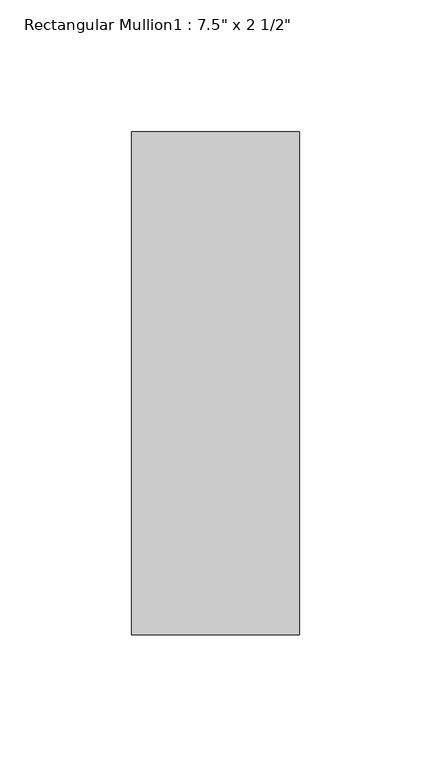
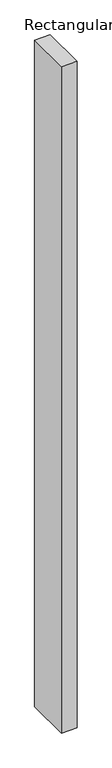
"""IFC4 building model written with IfcOpenShell, lengths in millimetres: member geometry."""

from ifc_helpers import new_model, si_unit, frame, origin, place, context, project, spatial, polyline, outline, extrude, source, transform, mapped, element, save


def member_86e9d2c2(model_context):
    return source(origin(), model_context, "Body", "SweptSolid", [
        extrude(outline(polyline([(0.0, 165.1), (0.0, -25.4), (-63.5, -25.4), (-63.5, 165.1), (0.0, 165.1)])), frame((0.0, 0.0, -2895.5999994), z_axis=(0.0, 0.0, 1.0), x_axis=(1.0, 0.0, 0.0)), (0.0, 0.0, 1.0), 2895.5999994),
    ])


if __name__ == "__main__":
    model = new_model("IFC4")
    model_context = context("Model", 3, world=origin())
    ifc_project = project(units=[si_unit("LENGTHUNIT", "METRE", prefix="MILLI")], contexts=[model_context])
    site = spatial("IfcSite", under=ifc_project)
    building = spatial("IfcBuilding", under=site)
    placement = place(None, origin())
    member_shape = member_86e9d2c2(model_context)
    element("IfcMember", 1, ObjectType="Rectangular Mullion1 : 7.5\" x 2 1/2\"", at=placement, inside=building, context=model_context, shape_type="MappedRepresentation", body=[
        mapped(member_shape, transform((0.0, 0.0, 0.0), x_axis=(1.0, 0.0, 0.0), y_axis=(0.0, 1.0, 0.0), z_axis=(0.0, 0.0, 1.0))),
    ])
    save(model, "model.ifc")
